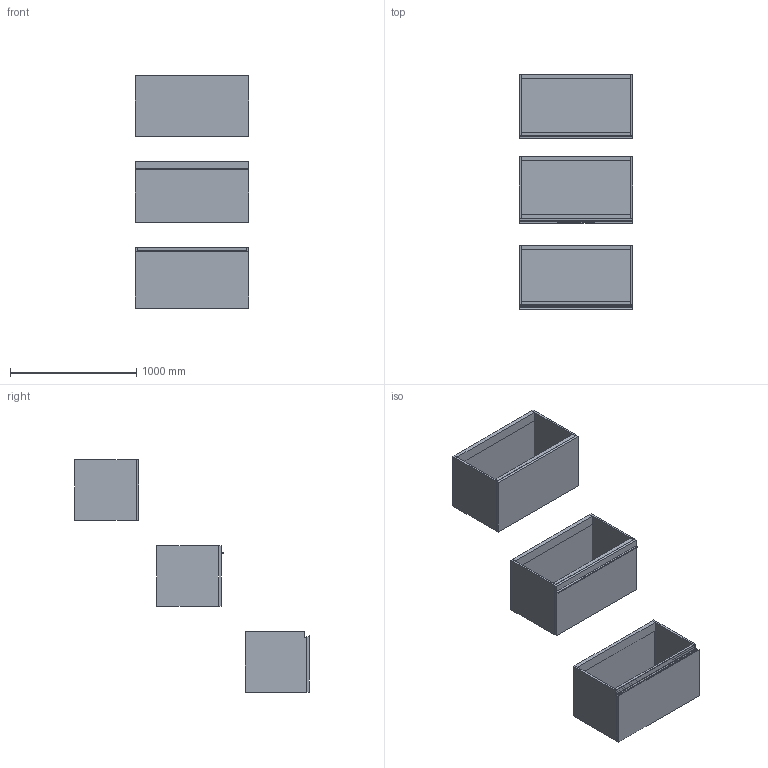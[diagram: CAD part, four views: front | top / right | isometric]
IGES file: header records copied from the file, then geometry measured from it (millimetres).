
Start section: Data from Parasolid IGES Translator 19.0.9, Copyright(c) 2006 Siemens PL M Software. All Rights Reserved.
Global section: file name: noorth-SI-H 48 D 51 W 90_8512.igs; native system: By Siemens PLM Incorporated; preprocessor: XPlus GENERIC/IGES 19.0.9; author: Noname; organization: Noname; date: 20200601.114408; units: metre
Bounding box: 900 x 1857.1 x 1840.01 mm (x, y, z)
Volume: 77635490.7 mm3; surface area: 11654029.7 mm2
Topology: 23 solids, 23 shells, 196 faces, 418 edges, 258 vertices
Faces by surface type: plane 152, extrusion 16, bspline 16, cylinder 12
